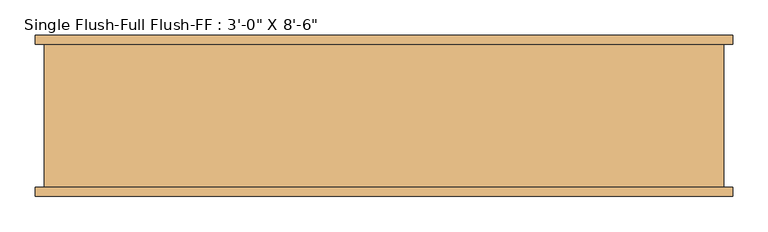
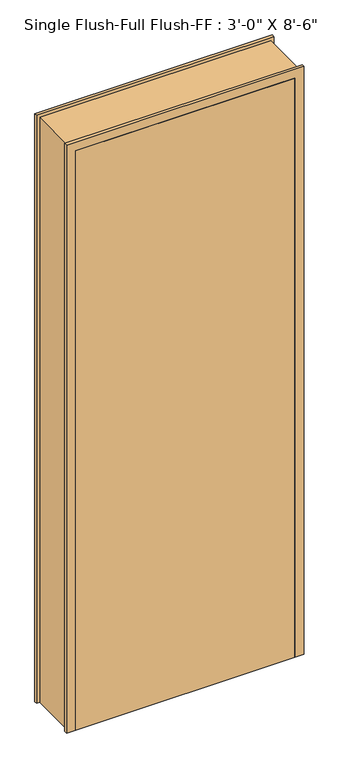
"""IFC4 building model written with IfcOpenShell, lengths in millimetres: door geometry."""

import ifcopenshell
import ifcopenshell.guid

model = None  # the IFC model being written
_history = None  # IfcOwnerHistory: only IFC2X3 demands one
_inside = {}  # id of a spatial element -> (the spatial element, [elements in it])
_under = {}  # id of a project, library or spatial element -> (it, [spatial elements below it])
_declared = {}  # id of a project -> (the project, [libraries it declares])
_typed = {}  # id of a type object -> (the type object, [elements of that type])
_made_of = {}  # id of a material, layer set ... -> (it, [elements and type objects made of it])


def new_model(schema):
    """Start an empty IFC model of exactly this schema.

    Asked for "IFC4X3", IfcOpenShell would pick the latest addendum, in which some entities
    have other attributes; the version numbers below select the first issue.
    IFC2X3 requires an IfcOwnerHistory on every rooted entity: one is made here for all.
    """
    global model, _history
    if schema == "IFC4X3":
        model = ifcopenshell.file(schema_version=(4, 3, 0, 0))
    else:
        model = ifcopenshell.file(schema=schema)
    _inside.clear()
    _under.clear()
    _declared.clear()
    _typed.clear()
    _made_of.clear()
    _history = None
    if model.schema == "IFC2X3":
        org = make("IfcOrganization", Name="unknown")
        user = make(
            "IfcPersonAndOrganization",
            ThePerson=make("IfcPerson", FamilyName="unknown"),
            TheOrganization=org,
        )
        app = make(
            "IfcApplication",
            ApplicationDeveloper=org,
            Version="unknown",
            ApplicationFullName="unknown",
            ApplicationIdentifier="unknown",
        )
        _history = make(
            "IfcOwnerHistory",
            OwningUser=user,
            OwningApplication=app,
            ChangeAction="ADDED",
            CreationDate=0,
        )
    return model


def make(cls, **values):
    """One entity of the class cls with the attributes given. An attribute that is None is left unset."""
    return model.create_entity(
        cls, **{name: value for name, value in values.items() if value is not None}
    )


def rooted(cls, **values):
    """An entity with a GlobalId (a new one), such as an element, a storey or a relation."""
    return make(cls, GlobalId=ifcopenshell.guid.new(), OwnerHistory=_history, **values)


def si_unit(unit_type, name, prefix=None):
    """IfcSIUnit, for example si_unit("LENGTHUNIT", "METRE", prefix="MILLI")."""
    return make("IfcSIUnit", UnitType=unit_type, Prefix=prefix, Name=name)


def assignment(units):
    """IfcUnitAssignment: the units of a project."""
    return None if units is None else make("IfcUnitAssignment", Units=units)


def point(xyz):
    """IfcCartesianPoint."""
    return None if xyz is None else make("IfcCartesianPoint", Coordinates=xyz)


def direction(xyz):
    """IfcDirection."""
    return None if xyz is None else make("IfcDirection", DirectionRatios=xyz)


def frame(location, z_axis=None, x_axis=None):
    """IfcAxis2Placement3D, a coordinate frame: its origin and axes. An axis left out is left unset."""
    return make(
        "IfcAxis2Placement3D",
        Location=point(location),
        Axis=direction(z_axis),
        RefDirection=direction(x_axis),
    )


def origin():
    """The frame at (0, 0, 0) with its axes left unset."""
    return frame((0.0, 0.0, 0.0))


def origin_with_axes():
    """The frame at (0, 0, 0) with the z axis (0, 0, 1) and the x axis (1, 0, 0) written out."""
    return frame((0.0, 0.0, 0.0), z_axis=(0.0, 0.0, 1.0), x_axis=(1.0, 0.0, 0.0))


def place(relative_to, where):
    """IfcLocalPlacement: puts the frame where relative to a parent placement (None: the world)."""
    return make(
        "IfcLocalPlacement", PlacementRelTo=relative_to, RelativePlacement=where
    )


def context(
    kind, dimensions, precision=None, world=None, true_north=None, identifier=None
):
    """IfcGeometricRepresentationContext, for example the 3D "Model" context."""
    return make(
        "IfcGeometricRepresentationContext",
        ContextIdentifier=identifier,
        ContextType=kind,
        CoordinateSpaceDimension=dimensions,
        Precision=precision,
        WorldCoordinateSystem=world,
        TrueNorth=true_north,
    )


def project(units=None, contexts=None):
    """IfcProject with its units and contexts."""
    return rooted(
        "IfcProject",
        Name="project",
        RepresentationContexts=contexts,
        UnitsInContext=assignment(units),
    )


def spatial(cls, under=None, at=None, **own):
    """A site, building, storey or space (cls), placed at a placement, below another one or the project."""
    s = rooted(cls, ObjectPlacement=at, **own)
    if under is not None:
        _under.setdefault(under.id(), (under, []))[1].append(s)
    return s


def polyline(points):
    """IfcPolyline through the points."""
    return make("IfcPolyline", Points=[point(p) for p in points])


def outline(outer, holes=None, kind="AREA"):
    """IfcArbitraryClosedProfileDef: a profile drawn as a closed curve; with holes, ...WithVoids."""
    if holes is None:
        return make("IfcArbitraryClosedProfileDef", ProfileType=kind, OuterCurve=outer)
    return make(
        "IfcArbitraryProfileDefWithVoids",
        ProfileType=kind,
        OuterCurve=outer,
        InnerCurves=holes,
    )


def extrude(swept, where, along, depth):
    """IfcExtrudedAreaSolid: the profile swept, set in the frame where, extruded along a direction by depth."""
    return make(
        "IfcExtrudedAreaSolid",
        SweptArea=swept,
        Position=where,
        ExtrudedDirection=direction(along),
        Depth=depth,
    )


def faces_of(points, faces, orient=None, outer=None):
    """IfcFace entities. A face is a list of loops; a loop is a list of indices into points, from 0.

    orient and outer hold one flag for each loop. By default every Orientation is true, the
    first loop of a face is its IfcFaceOuterBound and the others are IfcFaceBound.
    """
    made = []
    for i, loops in enumerate(faces):
        bounds = []
        for j, loop in enumerate(loops):
            is_outer = j == 0 if outer is None else outer[i][j]
            bounds.append(
                make(
                    "IfcFaceOuterBound" if is_outer else "IfcFaceBound",
                    Bound=make("IfcPolyLoop", Polygon=[points[k] for k in loop]),
                    Orientation=True if orient is None else orient[i][j],
                )
            )
        made.append(make("IfcFace", Bounds=bounds))
    return made


def faceted_brep(points, faces, orient=None, outer=None, voids=None):
    """IfcFacetedBrep: a solid bounded by flat faces; with voids (closed shells), ...WithVoids."""
    shared = [point(p) for p in points]
    hull = make("IfcClosedShell", CfsFaces=faces_of(shared, faces, orient, outer))
    if voids is None:
        return make("IfcFacetedBrep", Outer=hull)
    return make(
        "IfcFacetedBrepWithVoids",
        Outer=hull,
        Voids=[
            make(cls, CfsFaces=faces_of(shared, fs, o, b)) for cls, fs, o, b in voids
        ],
    )


def shape(context_of_items, identifier, shape_type, items):
    """IfcShapeRepresentation: the items that make up one representation, for example the "Body"."""
    return make(
        "IfcShapeRepresentation",
        ContextOfItems=context_of_items,
        RepresentationIdentifier=identifier,
        RepresentationType=shape_type,
        Items=items,
    )


def source(mapping_origin, context_of_items, identifier, shape_type, items):
    """IfcRepresentationMap: a shape defined once, which mapped items show again and again."""
    return make(
        "IfcRepresentationMap",
        MappingOrigin=mapping_origin,
        MappedRepresentation=shape(context_of_items, identifier, shape_type, items),
    )


def transform(
    local_origin,
    x_axis=None,
    y_axis=None,
    z_axis=None,
    scale=None,
    scale2=None,
    scale3=None,
    uniform=True,
):
    """IfcCartesianTransformationOperator3D, or its non-uniform kind. x_axis, y_axis, z_axis: its Axis1, 2, 3."""
    if uniform:
        return make(
            "IfcCartesianTransformationOperator3D",
            Axis1=direction(x_axis),
            Axis2=direction(y_axis),
            LocalOrigin=point(local_origin),
            Scale=scale,
            Axis3=direction(z_axis),
        )
    return make(
        "IfcCartesianTransformationOperator3DnonUniform",
        Axis1=direction(x_axis),
        Axis2=direction(y_axis),
        LocalOrigin=point(local_origin),
        Scale=scale,
        Axis3=direction(z_axis),
        Scale2=scale2,
        Scale3=scale3,
    )


def mapped(mapping_source, mapping_target):
    """IfcMappedItem: shows the shape of a source again, moved by a transform."""
    return make(
        "IfcMappedItem", MappingSource=mapping_source, MappingTarget=mapping_target
    )


def made_of(thing, what):
    """Note that an element or type object is made of a material, layer set ...; save() writes the relation."""
    if what is not None:
        _made_of.setdefault(what.id(), (what, []))[1].append(thing)
    return thing


def element(
    cls,
    number,
    at=None,
    inside=None,
    cuts=None,
    type_object=None,
    material=None,
    context=None,
    identifier="Body",
    shape_type=None,
    held_by="IfcProductDefinitionShape",
    body=None,
    shapes=None,
    **own,
):
    """One element of the class cls, such as IfcWall. Its Tag is "e" and its number.

    at: its placement. inside: the storey or other place that contains it. cuts: it is an
    opening in that element (IfcRelVoidsElement). A single representation is given by context,
    identifier, shape_type and body (its items); several are given by shapes. held_by: the class
    of the entity that holds the representations. save() writes the other relations.
    """
    e = rooted(cls, Tag="e%d" % number, ObjectPlacement=at, **own)
    if body is not None:
        shapes = [shape(context, identifier, shape_type, body)]
    if shapes is not None:
        e.Representation = make(held_by, Representations=shapes)
    if inside is not None:
        _inside.setdefault(inside.id(), (inside, []))[1].append(e)
    if cuts is not None:
        rooted(
            "IfcRelVoidsElement", RelatingBuildingElement=cuts, RelatedOpeningElement=e
        )
    if type_object is not None:
        _typed.setdefault(type_object.id(), (type_object, []))[1].append(e)
    return made_of(e, material)


def aggregate(whole, parts):
    """IfcRelAggregates: a whole, such as a stair, and the parts it consists of."""
    return rooted("IfcRelAggregates", RelatingObject=whole, RelatedObjects=parts)


def save(model, path):
    """Write the relations noted so far, then the file.

    IfcRelAggregates (storeys below a building ...), IfcRelContainedInSpatialStructure (elements
    in a storey), IfcRelDefinesByType, IfcRelAssociatesMaterial and IfcRelDeclares: one each for
    every whole, place, type object, material and project.
    """
    for whole, parts in _under.values():
        aggregate(whole, parts)
    for where, things in _inside.values():
        rooted(
            "IfcRelContainedInSpatialStructure",
            RelatedElements=things,
            RelatingStructure=where,
        )
    for kind, things in _typed.values():
        rooted("IfcRelDefinesByType", RelatedObjects=things, RelatingType=kind)
    for what, things in _made_of.values():
        rooted("IfcRelAssociatesMaterial", RelatedObjects=things, RelatingMaterial=what)
    for by, libraries in _declared.values():
        rooted("IfcRelDeclares", RelatingContext=by, RelatedDefinitions=libraries)
    model.write(path)


def door_25aa1bd3(model_context):
    return source(origin(), model_context, "Body", "SolidModel", [
        extrude(outline(polyline([(457.2, -69.85), (457.2, -114.3), (-457.2, -114.3), (-457.2, -69.85), (457.2, -69.85)])), origin_with_axes(), (0.0, 0.0, 1.0), 2552.7),
        faceted_brep([(495.3, 101.6, 0.0), (482.6, 101.6, 0.0), (482.6, -101.6, 0.0), (495.3, -101.6, 0.0), (495.3, -114.3, 0.0), (457.2, -114.3, 0.0), (457.2, -69.85, 0.0), (441.325, -69.85, 0.0), (441.325, -19.05, 0.0), (457.2, -19.05, 0.0), (457.2, 114.3, 0.0), (495.3, 114.3, 0.0), (495.3, 114.3, 2590.8), (495.3, 101.6, 2590.8), (457.2, 114.3, 2552.7), (-457.2, 114.3, 2552.7), (-457.2, 114.3, 0.0), (-495.3, 114.3, 0.0), (-495.3, 114.3, 2590.8), (457.2, -19.05, 2552.7), (441.325, -19.05, 2536.825), (-441.325, -19.05, 2536.825), (-441.325, -19.05, 0.0), (-457.2, -19.05, 0.0), (-457.2, -19.05, 2552.7), (441.325, -69.85, 2536.825), (457.2, -69.85, 2552.7), (-457.2, -69.85, 2552.7), (-457.2, -69.85, 0.0), (-441.325, -69.85, 0.0), (-441.325, -69.85, 2536.825), (457.2, -114.3, 2552.7), (495.3, -114.3, 2590.8), (-495.3, -114.3, 2590.8), (-495.3, -114.3, 0.0), (-457.2, -114.3, 0.0), (-457.2, -114.3, 2552.7), (495.3, -101.6, 2590.8), (482.6, -101.6, 2578.1), (-482.6, -101.6, 2578.1), (-482.6, -101.6, 0.0), (-495.3, -101.6, 0.0), (-495.3, -101.6, 2590.8), (482.6, 101.6, 2578.1), (-495.3, 101.6, 2590.8), (-495.3, 101.6, 0.0), (-482.6, 101.6, 0.0), (-482.6, 101.6, 2578.1)], [[[0, 1, 2, 3, 4, 5, 6, 7, 8, 9, 10, 11]], [[11, 12, 13, 0]], [[10, 14, 15, 16, 17, 18, 12, 11]], [[9, 19, 14, 10]], [[8, 20, 21, 22, 23, 24, 19, 9]], [[7, 25, 20, 8]], [[6, 26, 27, 28, 29, 30, 25, 7]], [[5, 31, 26, 6]], [[4, 32, 33, 34, 35, 36, 31, 5]], [[3, 37, 32, 4]], [[2, 38, 39, 40, 41, 42, 37, 3]], [[1, 43, 38, 2]], [[0, 13, 44, 45, 46, 47, 43, 1]], [[18, 17, 45, 44]], [[45, 17, 16, 23, 22, 29, 28, 35, 34, 41, 40, 46]], [[24, 23, 16, 15]], [[30, 29, 22, 21]], [[36, 35, 28, 27]], [[42, 41, 34, 33]], [[47, 46, 40, 39]], [[12, 18, 44, 13]], [[19, 24, 15, 14]], [[25, 30, 21, 20]], [[31, 36, 27, 26]], [[37, 42, 33, 32]], [[43, 47, 39, 38]]]),
    ])


if __name__ == "__main__":
    model = new_model("IFC4")
    model_context = context("Model", 3, world=origin())
    ifc_project = project(units=[si_unit("LENGTHUNIT", "METRE", prefix="MILLI")], contexts=[model_context])
    site = spatial("IfcSite", under=ifc_project)
    building = spatial("IfcBuilding", under=site)
    placement = place(None, origin())
    door_shape = door_25aa1bd3(model_context)
    element("IfcDoor", 1, ObjectType="Single Flush-Full Flush-FF : 3'-0\" X 8'-6\"", at=placement, inside=building, context=model_context, shape_type="MappedRepresentation", body=[
        mapped(door_shape, transform((0.0, 0.0, 0.0), x_axis=(1.0, 0.0, 0.0), y_axis=(0.0, 1.0, 0.0), z_axis=(0.0, 0.0, 1.0))),
    ])
    save(model, "model.ifc")
